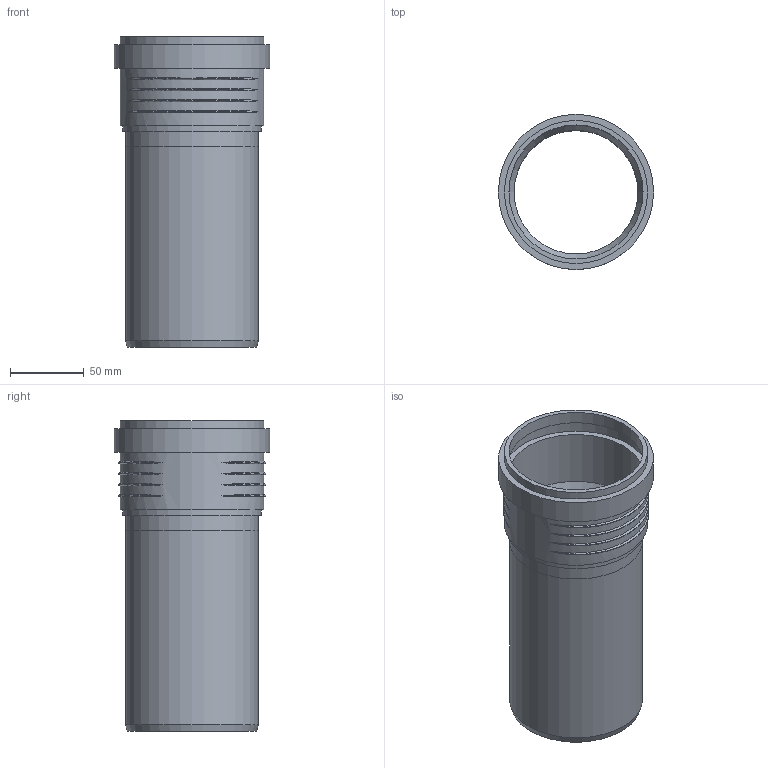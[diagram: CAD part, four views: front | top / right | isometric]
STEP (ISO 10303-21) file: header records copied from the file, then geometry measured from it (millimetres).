
FILE_DESCRIPTION(/* description */ (''),/* implementation_level */ '2;1');
FILE_NAME(/* name */ 'Z:\Geberit\Export\NewStep\390400.stp',/* time_stamp */ '2014-04-02T08:12:12+02:00',/* author */ ('ML'),/* organization */ (''),/* preprocessor_version */ 'ST-DEVELOPER v15.2',/* originating_system */ 'Autodesk Inventor 2014',/* authorisation */ '');
FILE_SCHEMA (('AUTOMOTIVE_DESIGN { 1 0 10303 214 3 1 1 }'));
Length unit declared in the file: millimetre
Products named in the file (3): 861431; 861584ohne; 390400
Bounding box: 105.4 x 105.4 x 211 mm (x, y, z)
Volume: 202555.2 mm3; surface area: 134886.7 mm2
Topology: 2 solids, 2 shells, 47 faces, 104 edges, 71 vertices
Faces by surface type: torus 24, cylinder 11, plane 10, cone 2
Full cylindrical faces by diameter (mm): 84 x2, 90.2 x2, 91 x2, 94.1 x1, 97.2 x2, 99.2 x1, 105.4 x1
Entity records: 2003 total; most frequent: CARTESIAN_POINT 962, DIRECTION 182, ORIENTED_EDGE 174, AXIS2_PLACEMENT_3D 91, EDGE_CURVE 87, EDGE_LOOP 78, VERTEX_POINT 71, STYLED_ITEM 49
